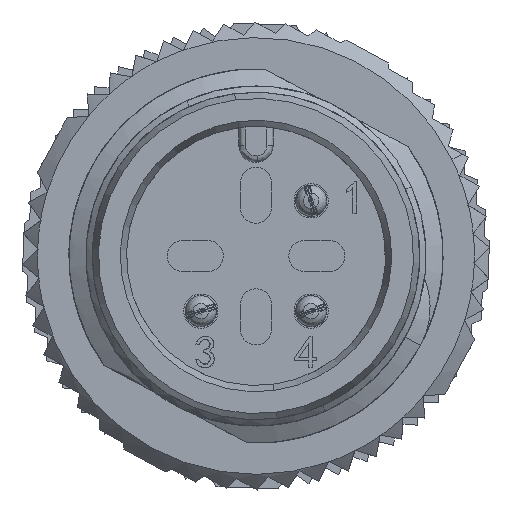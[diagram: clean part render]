
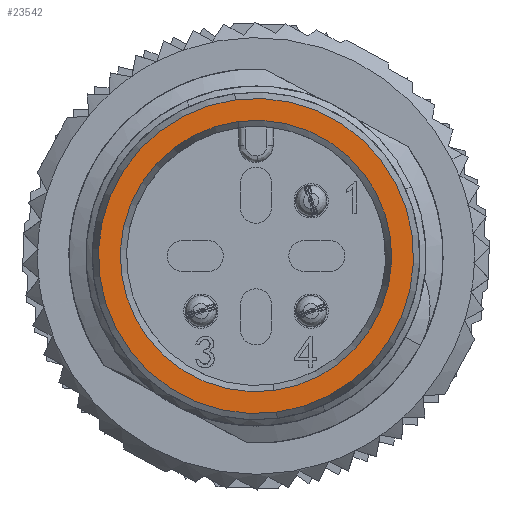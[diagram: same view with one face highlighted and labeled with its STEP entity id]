
A CAD part, left-side view. The second image highlights one B-rep face of the part: STEP entity #23542.
In plain terms, the highlighted planar face has unit normal (-1, 0, 0).
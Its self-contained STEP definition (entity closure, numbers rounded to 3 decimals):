
#597 = CARTESIAN_POINT ( 'NONE',  ( -186.896, 0., -0.256 ) ) ;
#3341 = DIRECTION ( 'NONE',  ( 1., 0., 0. ) ) ;
#6669 = FACE_OUTER_BOUND ( 'NONE', #44985, .T. ) ;
#6863 = EDGE_LOOP ( 'NONE', ( #50538, #32376 ) ) ;
#7461 = AXIS2_PLACEMENT_3D ( 'NONE', #36023, #46849, #67441 ) ;
#8701 = AXIS2_PLACEMENT_3D ( 'NONE', #34213, #18865, #23052 ) ;
#14252 = ORIENTED_EDGE ( 'NONE', *, *, #27579, .F. ) ;
#16057 = CARTESIAN_POINT ( 'NONE',  ( -186.896, 3.324, -3.579 ) ) ;
#16271 = DIRECTION ( 'NONE',  ( 1., 0., 0. ) ) ;
#18865 = DIRECTION ( 'NONE',  ( 1., 0., 0. ) ) ;
#20374 = DIRECTION ( 'NONE',  ( 0., -0.13, -0.991 ) ) ;
#23052 = DIRECTION ( 'NONE',  ( 0., 0.13, 0.991 ) ) ;
#23542 = ADVANCED_FACE ( 'NONE', ( #6669, #38022 ), #32119, .T. ) ;
#27579 = EDGE_CURVE ( 'NONE', #62564, #57239, #29835, .T. ) ;
#28239 = DIRECTION ( 'NONE',  ( -1., 0., 0. ) ) ;
#29049 = CARTESIAN_POINT ( 'NONE',  ( -186.896, -0.659, -5.263 ) ) ;
#29835 = CIRCLE ( 'NONE', #8701, 5.05 ) ;
#32119 = PLANE ( 'NONE',  #60892 ) ;
#32376 = ORIENTED_EDGE ( 'NONE', *, *, #67333, .T. ) ;
#34213 = CARTESIAN_POINT ( 'NONE',  ( -186.896, 0., -0.256 ) ) ;
#35280 = CIRCLE ( 'NONE', #7461, 5.05 ) ;
#36023 = CARTESIAN_POINT ( 'NONE',  ( -186.896, 0., -0.256 ) ) ;
#37754 = AXIS2_PLACEMENT_3D ( 'NONE', #40278, #3341, #20374 ) ;
#38022 = FACE_BOUND ( 'NONE', #6863, .T. ) ;
#40278 = CARTESIAN_POINT ( 'NONE',  ( -186.896, 0., -0.256 ) ) ;
#43277 = DIRECTION ( 'NONE',  ( 0., -1., 0. ) ) ;
#43832 = DIRECTION ( 'NONE',  ( 0., -0.13, -0.991 ) ) ;
#44577 = VERTEX_POINT ( 'NONE', #53876 ) ;
#44985 = EDGE_LOOP ( 'NONE', ( #64708, #14252 ) ) ;
#46373 = AXIS2_PLACEMENT_3D ( 'NONE', #597, #16271, #43832 ) ;
#46849 = DIRECTION ( 'NONE',  ( 1., 0., 0. ) ) ;
#48117 = CARTESIAN_POINT ( 'NONE',  ( -186.896, 0.659, 4.751 ) ) ;
#49266 = CARTESIAN_POINT ( 'NONE',  ( -186.896, 0.568, 4.057 ) ) ;
#49700 = CIRCLE ( 'NONE', #46373, 4.35 ) ;
#50538 = ORIENTED_EDGE ( 'NONE', *, *, #54040, .T. ) ;
#53876 = CARTESIAN_POINT ( 'NONE',  ( -186.896, -0.567, -4.569 ) ) ;
#54040 = EDGE_CURVE ( 'NONE', #44577, #61100, #61189, .T. ) ;
#57239 = VERTEX_POINT ( 'NONE', #48117 ) ;
#60892 = AXIS2_PLACEMENT_3D ( 'NONE', #16057, #28239, #43277 ) ;
#61100 = VERTEX_POINT ( 'NONE', #49266 ) ;
#61189 = CIRCLE ( 'NONE', #37754, 4.35 ) ;
#62564 = VERTEX_POINT ( 'NONE', #29049 ) ;
#64708 = ORIENTED_EDGE ( 'NONE', *, *, #68842, .F. ) ;
#67333 = EDGE_CURVE ( 'NONE', #61100, #44577, #49700, .T. ) ;
#67441 = DIRECTION ( 'NONE',  ( 0., 0.13, 0.991 ) ) ;
#68842 = EDGE_CURVE ( 'NONE', #57239, #62564, #35280, .T. ) ;
